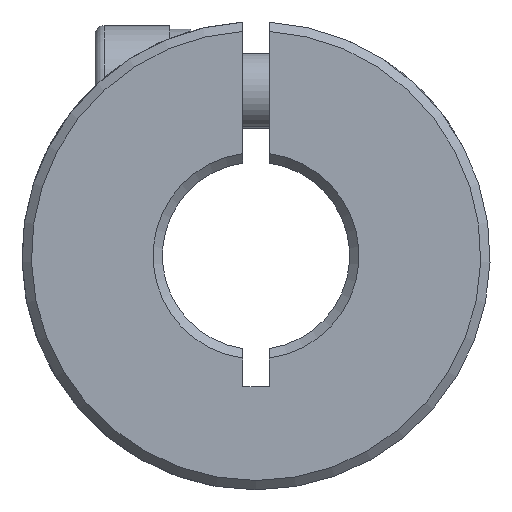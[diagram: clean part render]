
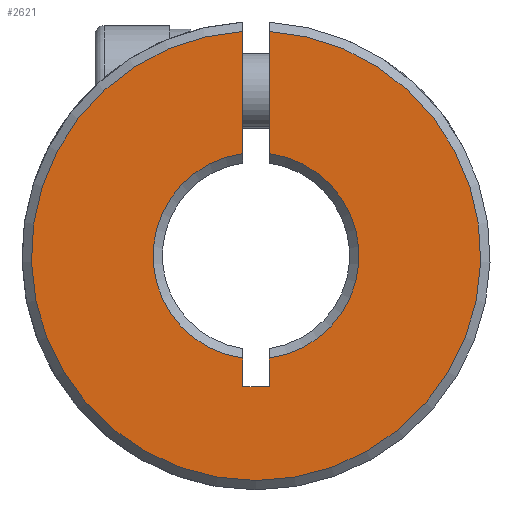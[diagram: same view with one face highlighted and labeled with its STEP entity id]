
A CAD part, front view. The second image highlights one B-rep face of the part: STEP entity #2621.
In plain terms, the highlighted planar face has unit normal (0, -1, 0).
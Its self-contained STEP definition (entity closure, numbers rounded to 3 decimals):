
#83 = ORIENTED_EDGE ( 'NONE', *, *, #3255, .F. ) ;
#89 = CIRCLE ( 'NONE', #2795, 5.5 ) ;
#208 = ORIENTED_EDGE ( 'NONE', *, *, #851, .F. ) ;
#297 = CARTESIAN_POINT ( 'NONE',  ( 0.7, 0.25, -7. ) ) ;
#392 = CIRCLE ( 'NONE', #2962, 12. ) ;
#394 = ORIENTED_EDGE ( 'NONE', *, *, #1569, .T. ) ;
#413 = DIRECTION ( 'NONE',  ( 0., -1., 0. ) ) ;
#580 = EDGE_CURVE ( 'NONE', #1291, #2936, #2473, .T. ) ;
#627 = LINE ( 'NONE', #3196, #2946 ) ;
#645 = CARTESIAN_POINT ( 'NONE',  ( 0., 0.25, 0. ) ) ;
#723 = DIRECTION ( 'NONE',  ( 0., 0., 1. ) ) ;
#746 = CARTESIAN_POINT ( 'NONE',  ( 12.5, 0.25, -50. ) ) ;
#787 = CARTESIAN_POINT ( 'NONE',  ( 0.7, 0.25, -5.455 ) ) ;
#813 = CARTESIAN_POINT ( 'NONE',  ( -0.7, 0.25, -7. ) ) ;
#851 = EDGE_CURVE ( 'NONE', #1885, #1900, #2320, .T. ) ;
#915 = VECTOR ( 'NONE', #3434, 1000. ) ;
#937 = CARTESIAN_POINT ( 'NONE',  ( 0., 0.25, 0. ) ) ;
#942 = AXIS2_PLACEMENT_3D ( 'NONE', #645, #956, #2246 ) ;
#956 = DIRECTION ( 'NONE',  ( 0., 1., 0. ) ) ;
#971 = DIRECTION ( 'NONE',  ( 0., 0., 1. ) ) ;
#1005 = CARTESIAN_POINT ( 'NONE',  ( 0., 0.25, 0. ) ) ;
#1153 = CARTESIAN_POINT ( 'NONE',  ( -0.7, 0.25, 5.455 ) ) ;
#1257 = VECTOR ( 'NONE', #3460, 1000. ) ;
#1291 = VERTEX_POINT ( 'NONE', #1763 ) ;
#1300 = DIRECTION ( 'NONE',  ( 0., 1., 0. ) ) ;
#1308 = ORIENTED_EDGE ( 'NONE', *, *, #2287, .F. ) ;
#1569 = EDGE_CURVE ( 'NONE', #2006, #1900, #392, .T. ) ;
#1576 = ORIENTED_EDGE ( 'NONE', *, *, #580, .F. ) ;
#1625 = CIRCLE ( 'NONE', #942, 5.5 ) ;
#1746 = DIRECTION ( 'NONE',  ( 0., 0., -1. ) ) ;
#1763 = CARTESIAN_POINT ( 'NONE',  ( 0.7, 0.25, -7. ) ) ;
#1771 = VERTEX_POINT ( 'NONE', #813 ) ;
#1846 = CARTESIAN_POINT ( 'NONE',  ( 0.7, 0.25, -7. ) ) ;
#1885 = VERTEX_POINT ( 'NONE', #3053 ) ;
#1900 = VERTEX_POINT ( 'NONE', #2493 ) ;
#1903 = VECTOR ( 'NONE', #2997, 1000. ) ;
#1969 = VERTEX_POINT ( 'NONE', #2049 ) ;
#1986 = EDGE_CURVE ( 'NONE', #2006, #3370, #2772, .T. ) ;
#2006 = VERTEX_POINT ( 'NONE', #2310 ) ;
#2049 = CARTESIAN_POINT ( 'NONE',  ( -0.7, 0.25, -5.455 ) ) ;
#2126 = FACE_OUTER_BOUND ( 'NONE', #2821, .T. ) ;
#2246 = DIRECTION ( 'NONE',  ( 0., 0., 1. ) ) ;
#2287 = EDGE_CURVE ( 'NONE', #1771, #1291, #2597, .T. ) ;
#2310 = CARTESIAN_POINT ( 'NONE',  ( -0.7, 0.25, 11.98 ) ) ;
#2320 = LINE ( 'NONE', #297, #1903 ) ;
#2340 = CARTESIAN_POINT ( 'NONE',  ( 0.7, 0.25, -7. ) ) ;
#2388 = DIRECTION ( 'NONE',  ( 0., 0., -1. ) ) ;
#2473 = LINE ( 'NONE', #2340, #915 ) ;
#2493 = CARTESIAN_POINT ( 'NONE',  ( 0.7, 0.25, 11.98 ) ) ;
#2558 = CARTESIAN_POINT ( 'NONE',  ( -0.7, 0.25, -7. ) ) ;
#2597 = LINE ( 'NONE', #1846, #1257 ) ;
#2621 = ADVANCED_FACE ( 'NONE', ( #2126 ), #2657, .F. ) ;
#2657 = PLANE ( 'NONE',  #2928 ) ;
#2702 = EDGE_CURVE ( 'NONE', #1885, #2936, #1625, .T. ) ;
#2772 = LINE ( 'NONE', #2558, #3245 ) ;
#2795 = AXIS2_PLACEMENT_3D ( 'NONE', #1005, #2887, #2836 ) ;
#2821 = EDGE_LOOP ( 'NONE', ( #208, #3079, #1576, #1308, #83, #3310, #3101, #394 ) ) ;
#2836 = DIRECTION ( 'NONE',  ( 0., 0., 1. ) ) ;
#2887 = DIRECTION ( 'NONE',  ( 0., 1., 0. ) ) ;
#2889 = EDGE_CURVE ( 'NONE', #1969, #3370, #89, .T. ) ;
#2928 = AXIS2_PLACEMENT_3D ( 'NONE', #746, #1300, #723 ) ;
#2936 = VERTEX_POINT ( 'NONE', #787 ) ;
#2946 = VECTOR ( 'NONE', #2388, 1000. ) ;
#2962 = AXIS2_PLACEMENT_3D ( 'NONE', #937, #413, #971 ) ;
#2997 = DIRECTION ( 'NONE',  ( 0., 0., 1. ) ) ;
#3053 = CARTESIAN_POINT ( 'NONE',  ( 0.7, 0.25, 5.455 ) ) ;
#3079 = ORIENTED_EDGE ( 'NONE', *, *, #2702, .T. ) ;
#3101 = ORIENTED_EDGE ( 'NONE', *, *, #1986, .F. ) ;
#3196 = CARTESIAN_POINT ( 'NONE',  ( -0.7, 0.25, -7. ) ) ;
#3245 = VECTOR ( 'NONE', #1746, 1000. ) ;
#3255 = EDGE_CURVE ( 'NONE', #1969, #1771, #627, .T. ) ;
#3310 = ORIENTED_EDGE ( 'NONE', *, *, #2889, .T. ) ;
#3370 = VERTEX_POINT ( 'NONE', #1153 ) ;
#3434 = DIRECTION ( 'NONE',  ( 0., 0., 1. ) ) ;
#3460 = DIRECTION ( 'NONE',  ( 1., 0., 0. ) ) ;
